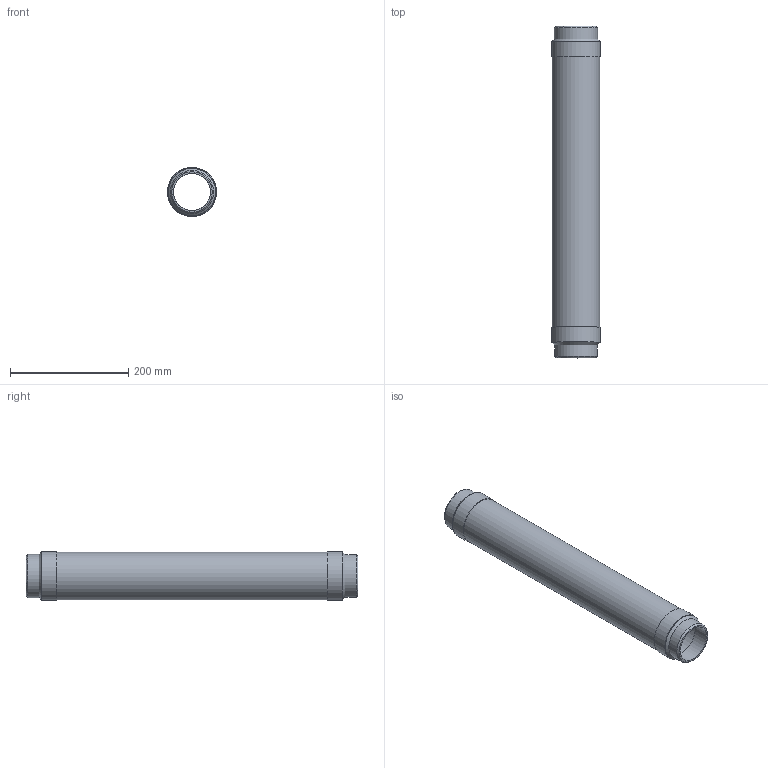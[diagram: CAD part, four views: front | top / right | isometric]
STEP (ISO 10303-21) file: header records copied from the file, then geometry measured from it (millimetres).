
FILE_DESCRIPTION(/* description */ (''),/* implementation_level */ '2;1');
FILE_NAME(/* name */ 'C:\001_Work\Designs\CSAWN\CSAWN-2.5x22.125.stp',/* time_stamp */ '2016-06-04T18:26:03-04:00',/* author */ ('rramoutar'),/* organization */ ('Mason Industries Inc.'),/* preprocessor_version */ 'ST-DEVELOPER v15.6',/* originating_system */ 'Autodesk Inventor 2015',/* authorisation */ '');
FILE_SCHEMA (('CONFIG_CONTROL_DESIGN'));
Length unit declared in the file: inch
Products named in the file (1): CSAWN-2.5x22.125
Bounding box: 82.94 x 561.98 x 82.94 mm (x, y, z)
Volume: 131045.3 mm3; surface area: 313639.5 mm2
Topology: 5 solids, 5 shells, 24 faces, 40 edges, 26 vertices
Faces by surface type: cylinder 10, plane 10, cone 4
Full cylindrical faces by diameter (mm): 62.713 x2, 73.025 x2, 79.756 x1, 80.569 x3, 82.95 x2
Entity records: 564 total; most frequent: DIRECTION 98, CARTESIAN_POINT 73, AXIS2_PLACEMENT_3D 49, EDGE_LOOP 48, ORIENTED_EDGE 48, STYLED_ITEM 29, FACE_BOUND 24, FACE_OUTER_BOUND 24
